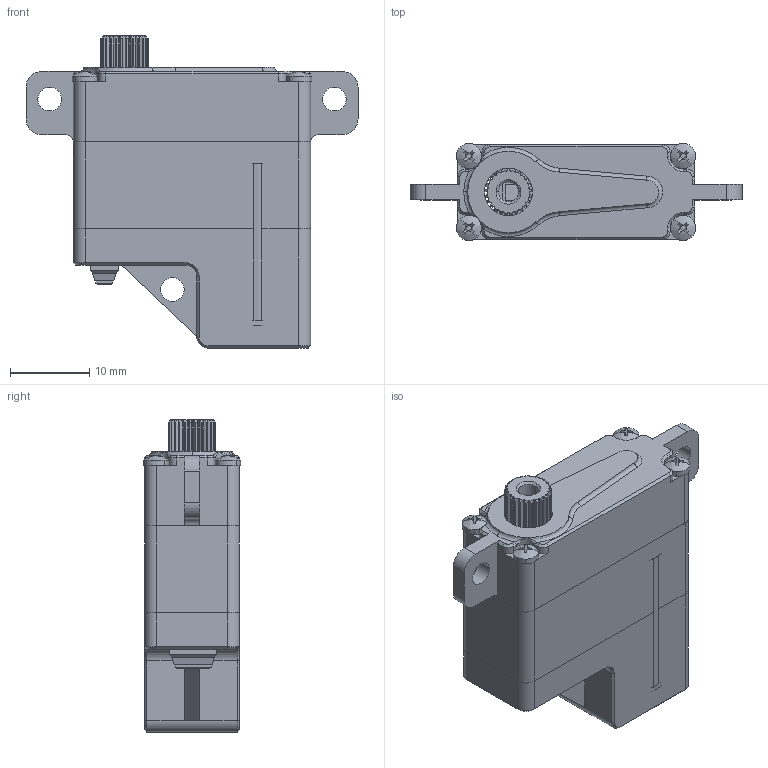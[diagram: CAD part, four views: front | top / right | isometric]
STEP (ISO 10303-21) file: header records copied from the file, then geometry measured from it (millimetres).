
FILE_DESCRIPTION (( 'STEP AP214' ), '1' );
FILE_NAME ('SV12T-12_DM_20240428.STEP', '2024-04-29T08:09:38', ( '' ), ( '' ), 'SwSTEP 2.0', 'SolidWorks 2016', '' );
FILE_SCHEMA (( 'AUTOMOTIVE_DESIGN' ));
Length unit declared in the file: millimetre
Products named in the file (1): SV12T-12_DM_20240428
Bounding box: 42 x 12.3 x 39.5 mm (x, y, z)
Surface area: 4727 mm2 (no closed solid volume)
Topology: 0 solids, 10 shells, 405 faces, 1175 edges, 773 vertices
Faces by surface type: plane 211, cylinder 127, cone 46, bspline 14, torus 7
Entity records: 18643 total; most frequent: CARTESIAN_POINT 3779, DIRECTION 2148, ORIENTED_EDGE 2085, EDGE_CURVE 1175, VERTEX_POINT 773, AXIS2_PLACEMENT_3D 751, VECTOR 646, LINE 646
